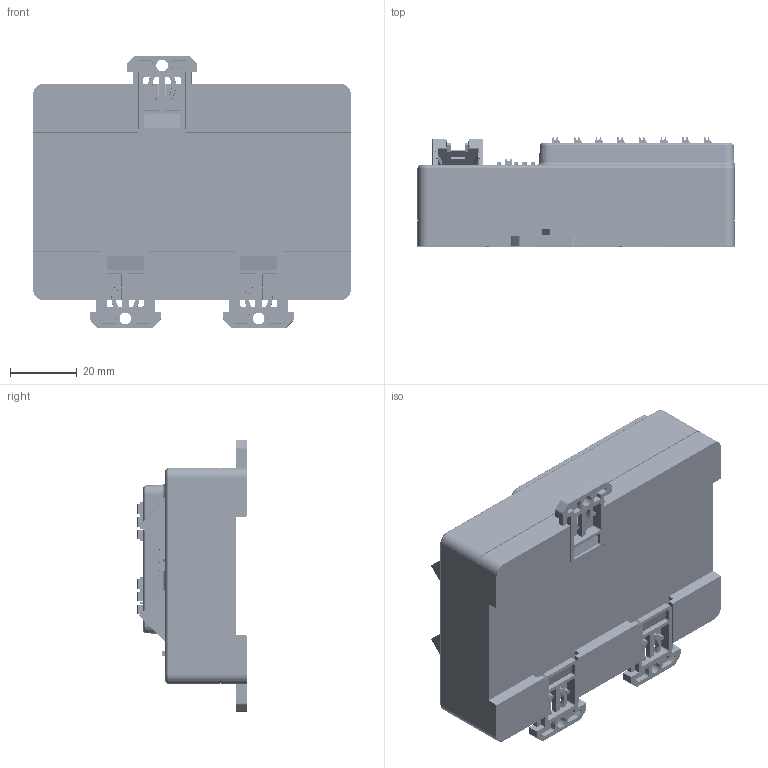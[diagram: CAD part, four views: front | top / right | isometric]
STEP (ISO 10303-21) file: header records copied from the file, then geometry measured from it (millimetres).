
FILE_DESCRIPTION((''),'2;1');
FILE_NAME('YH_16_1','2026-04-07T18:12:07',('Administrator'),(''),'CREO PARAMETRIC BY PTC INC, 2022073','CREO PARAMETRIC BY PTC INC, 2022073','');
FILE_SCHEMA(('CONFIG_CONTROL_DESIGN','SHAPE_APPEARANCE_LAYERS_GROUPS'));
Products named in the file (1): YH_16_1
Bounding box: 95.3 x 32.8 x 82 mm (x, y, z)
Volume: 76241.8 mm3; surface area: 96236.1 mm2
Topology: 1 solids, 1 shells, 13413 faces, 38475 edges, 25267 vertices
Faces by surface type: plane 9926, cylinder 2457, bspline 392, cone 256, torus 239, extrusion 119, sphere 24
Entity records: 497471 total; most frequent: CARTESIAN_POINT 146358, ORIENTED_EDGE 76774, DIRECTION 67969, EDGE_CURVE 38387, VECTOR 30489, LINE 30370, VERTEX_POINT 25235, AXIS2_PLACEMENT_3D 18740
